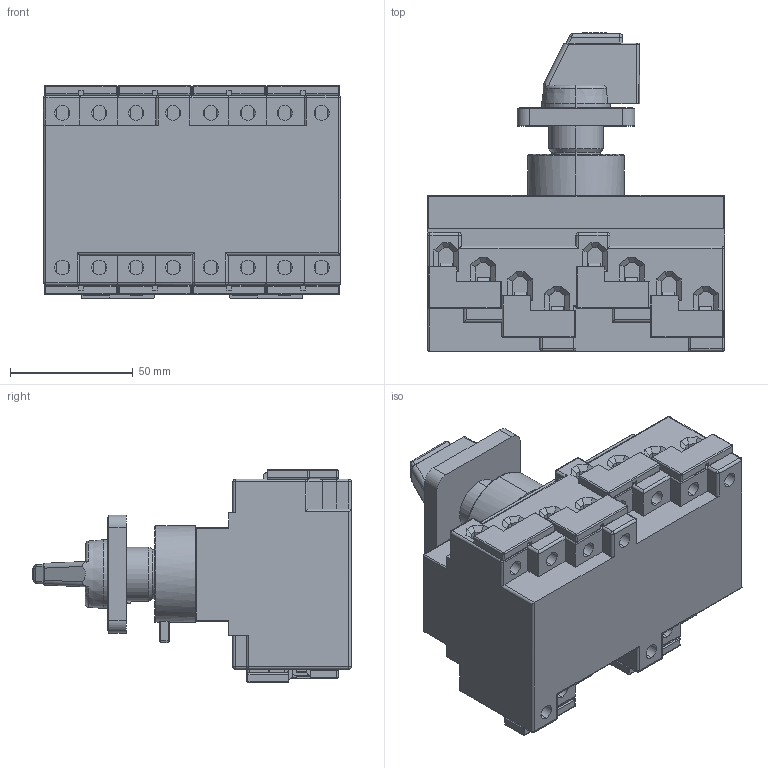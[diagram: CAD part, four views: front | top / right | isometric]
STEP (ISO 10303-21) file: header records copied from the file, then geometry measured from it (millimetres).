
FILE_DESCRIPTION (( 'STEP AP203' ), '1' );
FILE_NAME ('LS32 ZH1 A4+2.STEP', '2014-08-19T08:57:45', ( 'edv' ), ( '' ), 'SwSTEP 2.0', 'SolidWorks 2014', '' );
FILE_SCHEMA (( 'CONFIG_CONTROL_DESIGN' ));
Length unit declared in the file: millimetre
Products named in the file (5): Dummie Schalterkörper Z A8; Dummie Griff SV1Z; LSV-B1; CL8364_7 CL8364-1; LS32 ZH1 A4+2
Assembly tree (14 placements, depth 2):
  LS32 ZH1 A4+2
    Dummie Schalterkörper Z A8
    Dummie Griff SV1Z
    LSV-B1  x10
    CL8364_7 CL8364-1  x2
Bounding box: 121 x 129.9 x 86.7 mm (x, y, z)
Volume: 537760.2 mm3; surface area: 86440.3 mm2
Topology: 14 solids, 14 shells, 1677 faces, 4235 edges, 2612 vertices
Faces by surface type: plane 1104, cylinder 445, sphere 67, bspline 42, cone 10, torus 9
Entity records: 31841 total; most frequent: CARTESIAN_POINT 8306, ORIENTED_EDGE 4872, DIRECTION 4444, EDGE_CURVE 2436, VECTOR 1752, LINE 1752, VERTEX_POINT 1518, AXIS2_PLACEMENT_3D 1346
